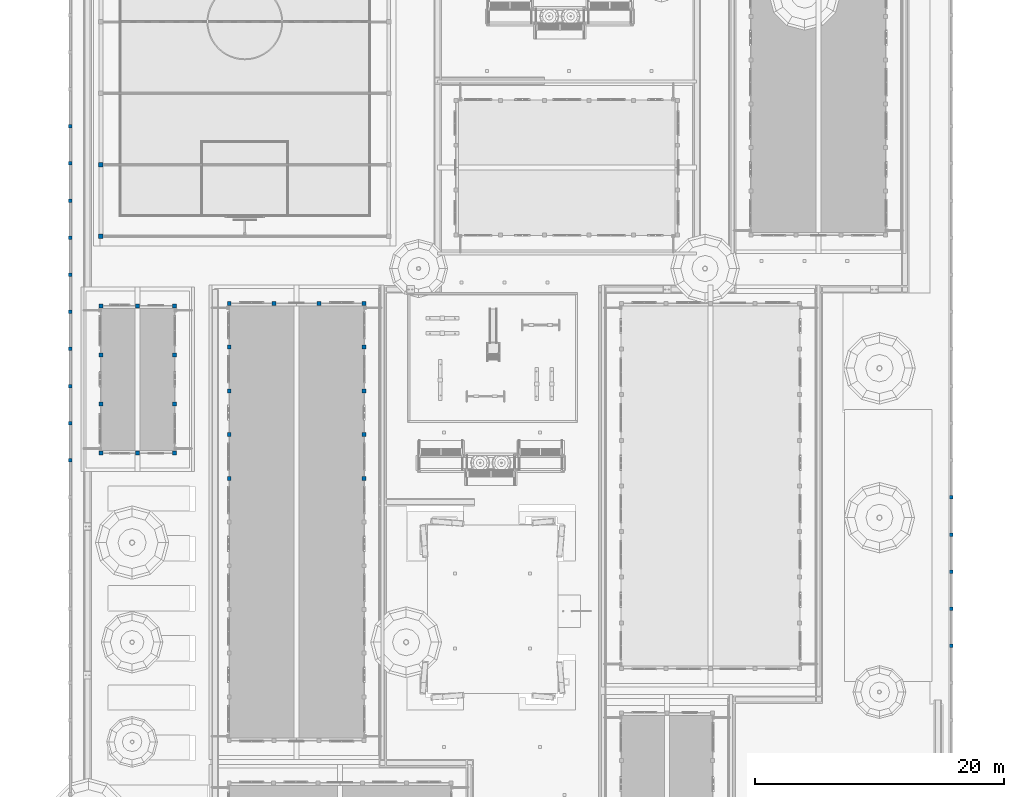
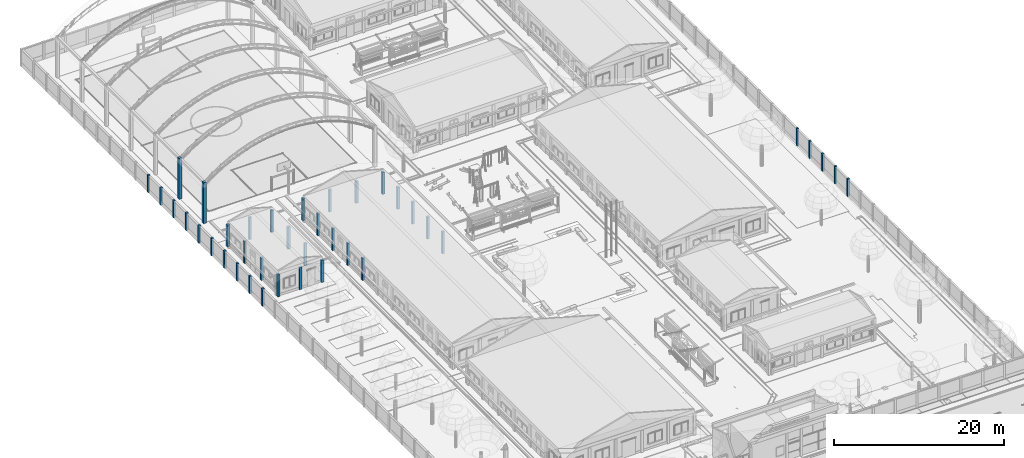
# One storey, part 6 of 177: 45 columns.
"""IFC4 building model written with IfcOpenShell, lengths in metres."""

from ifc_helpers import new_model, si_unit, origin, origin_with_axes, place, context, subcontext, project, spatial, triangles, element, save


model = new_model("IFC4")

# Units and contexts
model_context = context("Model", 3, precision=1e-05, world=origin_with_axes())
body_context = subcontext(model_context, "Body", "Model", "MODEL_VIEW")
ifc_project = project(units=[si_unit("LENGTHUNIT", "METRE"), si_unit("AREAUNIT", "SQUARE_METRE"), si_unit("VOLUMEUNIT", "CUBIC_METRE"), si_unit("PLANEANGLEUNIT", "RADIAN")], contexts=[model_context])

# Site, building, storey
site_placement = place(None, origin_with_axes())
site = spatial("IfcSite", under=ifc_project, at=site_placement, Name="Predio Los Mangos - Morales, San Martín", CompositionType="ELEMENT")
building_placement = place(site_placement, origin())
building = spatial("IfcBuilding", under=site, at=building_placement, Name="Hogar de Refugio Temporal", CompositionType="ELEMENT")
storey_placement = place(building_placement, origin())
storey = spatial("IfcBuildingStorey", under=building, at=storey_placement, Name="NIVEL 1 (NPT +0.00)", CompositionType="ELEMENT", Elevation=0.0)

# Columns
column_1_placement = place(storey_placement, origin())
element("IfcColumn", 1, at=column_1_placement, inside=storey, Name="E-04_col", ObjectType="Columna", PredefinedType="COLUMN", context=body_context, shape_type="Tessellation", body=[
    triangles([(13.64, 87.04, 0.15), (13.96, 87.04, 0.15), (13.96, 87.36, 0.15), (13.64, 87.36, 0.15), (13.64, 87.04, 3.3), (13.96, 87.04, 3.3), (13.96, 87.36, 3.3), (13.64, 87.36, 3.3)], [[1, 4, 3], [1, 3, 2], [5, 6, 7], [5, 7, 8], [1, 2, 6], [1, 6, 5], [2, 3, 7], [2, 7, 6], [3, 4, 8], [3, 8, 7], [4, 1, 5], [4, 5, 8]]),
])
column_2_placement = place(storey_placement, origin())
element("IfcColumn", 2, at=column_2_placement, inside=storey, Name="E-04_col", ObjectType="Columna", PredefinedType="COLUMN", context=body_context, shape_type="Tessellation", body=[
    triangles([(17.24, 87.04, 0.15), (17.56, 87.04, 0.15), (17.56, 87.36, 0.15), (17.24, 87.36, 0.15), (17.24, 87.04, 3.3), (17.56, 87.04, 3.3), (17.56, 87.36, 3.3), (17.24, 87.36, 3.3)], [[1, 4, 3], [1, 3, 2], [5, 6, 7], [5, 7, 8], [1, 2, 6], [1, 6, 5], [2, 3, 7], [2, 7, 6], [3, 4, 8], [3, 8, 7], [4, 1, 5], [4, 5, 8]]),
])
column_3_placement = place(storey_placement, origin())
element("IfcColumn", 3, at=column_3_placement, inside=storey, Name="E-04_col", ObjectType="Columna", PredefinedType="COLUMN", context=body_context, shape_type="Tessellation", body=[
    triangles([(20.84, 87.04, 0.15), (21.16, 87.04, 0.15), (21.16, 87.36, 0.15), (20.84, 87.36, 0.15), (20.84, 87.04, 3.3), (21.16, 87.04, 3.3), (21.16, 87.36, 3.3), (20.84, 87.36, 3.3)], [[1, 4, 3], [1, 3, 2], [5, 6, 7], [5, 7, 8], [1, 2, 6], [1, 6, 5], [2, 3, 7], [2, 7, 6], [3, 4, 8], [3, 8, 7], [4, 1, 5], [4, 5, 8]]),
])
column_4_placement = place(storey_placement, origin())
element("IfcColumn", 4, at=column_4_placement, inside=storey, Name="E-04_col", ObjectType="Columna", PredefinedType="COLUMN", context=body_context, shape_type="Tessellation", body=[
    triangles([(24.44, 87.04, 0.15), (24.76, 87.04, 0.15), (24.76, 87.36, 0.15), (24.44, 87.36, 0.15), (24.44, 87.04, 3.3), (24.76, 87.04, 3.3), (24.76, 87.36, 3.3), (24.44, 87.36, 3.3)], [[1, 4, 3], [1, 3, 2], [5, 6, 7], [5, 7, 8], [1, 2, 6], [1, 6, 5], [2, 3, 7], [2, 7, 6], [3, 4, 8], [3, 8, 7], [4, 1, 5], [4, 5, 8]]),
])
column_5_placement = place(storey_placement, origin())
element("IfcColumn", 5, at=column_5_placement, inside=storey, Name="E-04_col", ObjectType="Columna", PredefinedType="COLUMN", context=body_context, shape_type="Tessellation", body=[
    triangles([(13.64, 73.0, 0.15), (13.96, 73.0, 0.15), (13.96, 73.32, 0.15), (13.64, 73.32, 0.15), (13.64, 73.0, 3.3), (13.96, 73.0, 3.3), (13.96, 73.32, 3.3), (13.64, 73.32, 3.3)], [[1, 4, 3], [1, 3, 2], [5, 6, 7], [5, 7, 8], [1, 2, 6], [1, 6, 5], [2, 3, 7], [2, 7, 6], [3, 4, 8], [3, 8, 7], [4, 1, 5], [4, 5, 8]]),
])
column_6_placement = place(storey_placement, origin())
element("IfcColumn", 6, at=column_6_placement, inside=storey, Name="E-04_col", ObjectType="Columna", PredefinedType="COLUMN", context=body_context, shape_type="Tessellation", body=[
    triangles([(13.64, 76.51, 0.15), (13.96, 76.51, 0.15), (13.96, 76.83, 0.15), (13.64, 76.83, 0.15), (13.64, 76.51, 3.3), (13.96, 76.51, 3.3), (13.96, 76.83, 3.3), (13.64, 76.83, 3.3)], [[1, 4, 3], [1, 3, 2], [5, 6, 7], [5, 7, 8], [1, 2, 6], [1, 6, 5], [2, 3, 7], [2, 7, 6], [3, 4, 8], [3, 8, 7], [4, 1, 5], [4, 5, 8]]),
])
column_7_placement = place(storey_placement, origin())
element("IfcColumn", 7, at=column_7_placement, inside=storey, Name="E-04_col", ObjectType="Columna", PredefinedType="COLUMN", context=body_context, shape_type="Tessellation", body=[
    triangles([(13.64, 80.02, 0.15), (13.96, 80.02, 0.15), (13.96, 80.34, 0.15), (13.64, 80.34, 0.15), (13.64, 80.02, 3.3), (13.96, 80.02, 3.3), (13.96, 80.34, 3.3), (13.64, 80.34, 3.3)], [[1, 4, 3], [1, 3, 2], [5, 6, 7], [5, 7, 8], [1, 2, 6], [1, 6, 5], [2, 3, 7], [2, 7, 6], [3, 4, 8], [3, 8, 7], [4, 1, 5], [4, 5, 8]]),
])
column_8_placement = place(storey_placement, origin())
element("IfcColumn", 8, at=column_8_placement, inside=storey, Name="E-04_col", ObjectType="Columna", PredefinedType="COLUMN", context=body_context, shape_type="Tessellation", body=[
    triangles([(13.64, 83.53, 0.15), (13.96, 83.53, 0.15), (13.96, 83.85, 0.15), (13.64, 83.85, 0.15), (13.64, 83.53, 3.3), (13.96, 83.53, 3.3), (13.96, 83.85, 3.3), (13.64, 83.85, 3.3)], [[1, 4, 3], [1, 3, 2], [5, 6, 7], [5, 7, 8], [1, 2, 6], [1, 6, 5], [2, 3, 7], [2, 7, 6], [3, 4, 8], [3, 8, 7], [4, 1, 5], [4, 5, 8]]),
])
column_9_placement = place(storey_placement, origin())
element("IfcColumn", 9, at=column_9_placement, inside=storey, Name="E-04_col", ObjectType="Columna", PredefinedType="COLUMN", context=body_context, shape_type="Tessellation", body=[
    triangles([(13.64, 87.04, 0.15), (13.96, 87.04, 0.15), (13.96, 87.36, 0.15), (13.64, 87.36, 0.15), (13.64, 87.04, 3.3), (13.96, 87.04, 3.3), (13.96, 87.36, 3.3), (13.64, 87.36, 3.3)], [[1, 4, 3], [1, 3, 2], [5, 6, 7], [5, 7, 8], [1, 2, 6], [1, 6, 5], [2, 3, 7], [2, 7, 6], [3, 4, 8], [3, 8, 7], [4, 1, 5], [4, 5, 8]]),
])
column_10_placement = place(storey_placement, origin())
element("IfcColumn", 10, at=column_10_placement, inside=storey, Name="E-04_col", ObjectType="Columna", PredefinedType="COLUMN", context=body_context, shape_type="Tessellation", body=[
    triangles([(24.44, 73.0, 0.15), (24.76, 73.0, 0.15), (24.76, 73.32, 0.15), (24.44, 73.32, 0.15), (24.44, 73.0, 3.3), (24.76, 73.0, 3.3), (24.76, 73.32, 3.3), (24.44, 73.32, 3.3)], [[1, 4, 3], [1, 3, 2], [5, 6, 7], [5, 7, 8], [1, 2, 6], [1, 6, 5], [2, 3, 7], [2, 7, 6], [3, 4, 8], [3, 8, 7], [4, 1, 5], [4, 5, 8]]),
])
column_11_placement = place(storey_placement, origin())
element("IfcColumn", 11, at=column_11_placement, inside=storey, Name="E-04_col", ObjectType="Columna", PredefinedType="COLUMN", context=body_context, shape_type="Tessellation", body=[
    triangles([(24.44, 76.51, 0.15), (24.76, 76.51, 0.15), (24.76, 76.83, 0.15), (24.44, 76.83, 0.15), (24.44, 76.51, 3.3), (24.76, 76.51, 3.3), (24.76, 76.83, 3.3), (24.44, 76.83, 3.3)], [[1, 4, 3], [1, 3, 2], [5, 6, 7], [5, 7, 8], [1, 2, 6], [1, 6, 5], [2, 3, 7], [2, 7, 6], [3, 4, 8], [3, 8, 7], [4, 1, 5], [4, 5, 8]]),
])
column_12_placement = place(storey_placement, origin())
element("IfcColumn", 12, at=column_12_placement, inside=storey, Name="E-04_col", ObjectType="Columna", PredefinedType="COLUMN", context=body_context, shape_type="Tessellation", body=[
    triangles([(24.44, 80.02, 0.15), (24.76, 80.02, 0.15), (24.76, 80.34, 0.15), (24.44, 80.34, 0.15), (24.44, 80.02, 3.3), (24.76, 80.02, 3.3), (24.76, 80.34, 3.3), (24.44, 80.34, 3.3)], [[1, 4, 3], [1, 3, 2], [5, 6, 7], [5, 7, 8], [1, 2, 6], [1, 6, 5], [2, 3, 7], [2, 7, 6], [3, 4, 8], [3, 8, 7], [4, 1, 5], [4, 5, 8]]),
])
column_13_placement = place(storey_placement, origin())
element("IfcColumn", 13, at=column_13_placement, inside=storey, Name="E-04_col", ObjectType="Columna", PredefinedType="COLUMN", context=body_context, shape_type="Tessellation", body=[
    triangles([(24.44, 83.53, 0.15), (24.76, 83.53, 0.15), (24.76, 83.85, 0.15), (24.44, 83.85, 0.15), (24.44, 83.53, 3.3), (24.76, 83.53, 3.3), (24.76, 83.85, 3.3), (24.44, 83.85, 3.3)], [[1, 4, 3], [1, 3, 2], [5, 6, 7], [5, 7, 8], [1, 2, 6], [1, 6, 5], [2, 3, 7], [2, 7, 6], [3, 4, 8], [3, 8, 7], [4, 1, 5], [4, 5, 8]]),
])
column_14_placement = place(storey_placement, origin())
element("IfcColumn", 14, at=column_14_placement, inside=storey, Name="E-04_col", ObjectType="Columna", PredefinedType="COLUMN", context=body_context, shape_type="Tessellation", body=[
    triangles([(24.44, 87.04, 0.15), (24.76, 87.04, 0.15), (24.76, 87.36, 0.15), (24.44, 87.36, 0.15), (24.44, 87.04, 3.3), (24.76, 87.04, 3.3), (24.76, 87.36, 3.3), (24.44, 87.36, 3.3)], [[1, 4, 3], [1, 3, 2], [5, 6, 7], [5, 7, 8], [1, 2, 6], [1, 6, 5], [2, 3, 7], [2, 7, 6], [3, 4, 8], [3, 8, 7], [4, 1, 5], [4, 5, 8]]),
])
column_15_placement = place(storey_placement, origin())
element("IfcColumn", 15, at=column_15_placement, inside=storey, Name="E-09_col", ObjectType="Columna", PredefinedType="COLUMN", context=body_context, shape_type="Tessellation", body=[
    triangles([(3.34, 75.04, 0.15), (3.66, 75.04, 0.15), (3.66, 75.36, 0.15), (3.34, 75.36, 0.15), (3.34, 75.04, 3.3), (3.66, 75.04, 3.3), (3.66, 75.36, 3.3), (3.34, 75.36, 3.3)], [[1, 4, 3], [1, 3, 2], [5, 6, 7], [5, 7, 8], [1, 2, 6], [1, 6, 5], [2, 3, 7], [2, 7, 6], [3, 4, 8], [3, 8, 7], [4, 1, 5], [4, 5, 8]]),
])
column_16_placement = place(storey_placement, origin())
element("IfcColumn", 16, at=column_16_placement, inside=storey, Name="E-09_col", ObjectType="Columna", PredefinedType="COLUMN", context=body_context, shape_type="Tessellation", body=[
    triangles([(6.29, 75.04, 0.15), (6.61, 75.04, 0.15), (6.61, 75.36, 0.15), (6.29, 75.36, 0.15), (6.29, 75.04, 3.3), (6.61, 75.04, 3.3), (6.61, 75.36, 3.3), (6.29, 75.36, 3.3)], [[1, 4, 3], [1, 3, 2], [5, 6, 7], [5, 7, 8], [1, 2, 6], [1, 6, 5], [2, 3, 7], [2, 7, 6], [3, 4, 8], [3, 8, 7], [4, 1, 5], [4, 5, 8]]),
])
column_17_placement = place(storey_placement, origin())
element("IfcColumn", 17, at=column_17_placement, inside=storey, Name="E-09_col", ObjectType="Columna", PredefinedType="COLUMN", context=body_context, shape_type="Tessellation", body=[
    triangles([(9.24, 75.04, 0.15), (9.56, 75.04, 0.15), (9.56, 75.36, 0.15), (9.24, 75.36, 0.15), (9.24, 75.04, 3.3), (9.56, 75.04, 3.3), (9.56, 75.36, 3.3), (9.24, 75.36, 3.3)], [[1, 4, 3], [1, 3, 2], [5, 6, 7], [5, 7, 8], [1, 2, 6], [1, 6, 5], [2, 3, 7], [2, 7, 6], [3, 4, 8], [3, 8, 7], [4, 1, 5], [4, 5, 8]]),
])
column_18_placement = place(storey_placement, origin())
element("IfcColumn", 18, at=column_18_placement, inside=storey, Name="E-09_col", ObjectType="Columna", PredefinedType="COLUMN", context=body_context, shape_type="Tessellation", body=[
    triangles([(3.34, 86.84, 0.15), (3.66, 86.84, 0.15), (3.66, 87.16, 0.15), (3.34, 87.16, 0.15), (3.34, 86.84, 3.3), (3.66, 86.84, 3.3), (3.66, 87.16, 3.3), (3.34, 87.16, 3.3)], [[1, 4, 3], [1, 3, 2], [5, 6, 7], [5, 7, 8], [1, 2, 6], [1, 6, 5], [2, 3, 7], [2, 7, 6], [3, 4, 8], [3, 8, 7], [4, 1, 5], [4, 5, 8]]),
])
column_19_placement = place(storey_placement, origin())
element("IfcColumn", 19, at=column_19_placement, inside=storey, Name="E-09_col", ObjectType="Columna", PredefinedType="COLUMN", context=body_context, shape_type="Tessellation", body=[
    triangles([(6.29, 86.84, 0.15), (6.61, 86.84, 0.15), (6.61, 87.16, 0.15), (6.29, 87.16, 0.15), (6.29, 86.84, 3.3), (6.61, 86.84, 3.3), (6.61, 87.16, 3.3), (6.29, 87.16, 3.3)], [[1, 4, 3], [1, 3, 2], [5, 6, 7], [5, 7, 8], [1, 2, 6], [1, 6, 5], [2, 3, 7], [2, 7, 6], [3, 4, 8], [3, 8, 7], [4, 1, 5], [4, 5, 8]]),
])
column_20_placement = place(storey_placement, origin())
element("IfcColumn", 20, at=column_20_placement, inside=storey, Name="E-09_col", ObjectType="Columna", PredefinedType="COLUMN", context=body_context, shape_type="Tessellation", body=[
    triangles([(9.24, 86.84, 0.15), (9.56, 86.84, 0.15), (9.56, 87.16, 0.15), (9.24, 87.16, 0.15), (9.24, 86.84, 3.3), (9.56, 86.84, 3.3), (9.56, 87.16, 3.3), (9.24, 87.16, 3.3)], [[1, 4, 3], [1, 3, 2], [5, 6, 7], [5, 7, 8], [1, 2, 6], [1, 6, 5], [2, 3, 7], [2, 7, 6], [3, 4, 8], [3, 8, 7], [4, 1, 5], [4, 5, 8]]),
])
column_21_placement = place(storey_placement, origin())
element("IfcColumn", 21, at=column_21_placement, inside=storey, Name="E-09_col", ObjectType="Columna", PredefinedType="COLUMN", context=body_context, shape_type="Tessellation", body=[
    triangles([(3.34, 75.04, 0.15), (3.66, 75.04, 0.15), (3.66, 75.36, 0.15), (3.34, 75.36, 0.15), (3.34, 75.04, 3.3), (3.66, 75.04, 3.3), (3.66, 75.36, 3.3), (3.34, 75.36, 3.3)], [[1, 4, 3], [1, 3, 2], [5, 6, 7], [5, 7, 8], [1, 2, 6], [1, 6, 5], [2, 3, 7], [2, 7, 6], [3, 4, 8], [3, 8, 7], [4, 1, 5], [4, 5, 8]]),
])
column_22_placement = place(storey_placement, origin())
element("IfcColumn", 22, at=column_22_placement, inside=storey, Name="E-09_col", ObjectType="Columna", PredefinedType="COLUMN", context=body_context, shape_type="Tessellation", body=[
    triangles([(3.34, 78.9733, 0.15), (3.66, 78.9733, 0.15), (3.66, 79.2933, 0.15), (3.34, 79.2933, 0.15), (3.34, 78.9733, 3.3), (3.66, 78.9733, 3.3), (3.66, 79.2933, 3.3), (3.34, 79.2933, 3.3)], [[1, 4, 3], [1, 3, 2], [5, 6, 7], [5, 7, 8], [1, 2, 6], [1, 6, 5], [2, 3, 7], [2, 7, 6], [3, 4, 8], [3, 8, 7], [4, 1, 5], [4, 5, 8]]),
])
column_23_placement = place(storey_placement, origin())
element("IfcColumn", 23, at=column_23_placement, inside=storey, Name="E-09_col", ObjectType="Columna", PredefinedType="COLUMN", context=body_context, shape_type="Tessellation", body=[
    triangles([(3.34, 82.9067, 0.15), (3.66, 82.9067, 0.15), (3.66, 83.2267, 0.15), (3.34, 83.2267, 0.15), (3.34, 82.9067, 3.3), (3.66, 82.9067, 3.3), (3.66, 83.2267, 3.3), (3.34, 83.2267, 3.3)], [[1, 4, 3], [1, 3, 2], [5, 6, 7], [5, 7, 8], [1, 2, 6], [1, 6, 5], [2, 3, 7], [2, 7, 6], [3, 4, 8], [3, 8, 7], [4, 1, 5], [4, 5, 8]]),
])
column_24_placement = place(storey_placement, origin())
element("IfcColumn", 24, at=column_24_placement, inside=storey, Name="E-09_col", ObjectType="Columna", PredefinedType="COLUMN", context=body_context, shape_type="Tessellation", body=[
    triangles([(3.34, 86.84, 0.15), (3.66, 86.84, 0.15), (3.66, 87.16, 0.15), (3.34, 87.16, 0.15), (3.34, 86.84, 3.3), (3.66, 86.84, 3.3), (3.66, 87.16, 3.3), (3.34, 87.16, 3.3)], [[1, 4, 3], [1, 3, 2], [5, 6, 7], [5, 7, 8], [1, 2, 6], [1, 6, 5], [2, 3, 7], [2, 7, 6], [3, 4, 8], [3, 8, 7], [4, 1, 5], [4, 5, 8]]),
])
column_25_placement = place(storey_placement, origin())
element("IfcColumn", 25, at=column_25_placement, inside=storey, Name="E-09_col", ObjectType="Columna", PredefinedType="COLUMN", context=body_context, shape_type="Tessellation", body=[
    triangles([(9.24, 75.04, 0.15), (9.56, 75.04, 0.15), (9.56, 75.36, 0.15), (9.24, 75.36, 0.15), (9.24, 75.04, 3.3), (9.56, 75.04, 3.3), (9.56, 75.36, 3.3), (9.24, 75.36, 3.3)], [[1, 4, 3], [1, 3, 2], [5, 6, 7], [5, 7, 8], [1, 2, 6], [1, 6, 5], [2, 3, 7], [2, 7, 6], [3, 4, 8], [3, 8, 7], [4, 1, 5], [4, 5, 8]]),
])
column_26_placement = place(storey_placement, origin())
element("IfcColumn", 26, at=column_26_placement, inside=storey, Name="E-09_col", ObjectType="Columna", PredefinedType="COLUMN", context=body_context, shape_type="Tessellation", body=[
    triangles([(9.24, 78.9733, 0.15), (9.56, 78.9733, 0.15), (9.56, 79.2933, 0.15), (9.24, 79.2933, 0.15), (9.24, 78.9733, 3.3), (9.56, 78.9733, 3.3), (9.56, 79.2933, 3.3), (9.24, 79.2933, 3.3)], [[1, 4, 3], [1, 3, 2], [5, 6, 7], [5, 7, 8], [1, 2, 6], [1, 6, 5], [2, 3, 7], [2, 7, 6], [3, 4, 8], [3, 8, 7], [4, 1, 5], [4, 5, 8]]),
])
column_27_placement = place(storey_placement, origin())
element("IfcColumn", 27, at=column_27_placement, inside=storey, Name="E-09_col", ObjectType="Columna", PredefinedType="COLUMN", context=body_context, shape_type="Tessellation", body=[
    triangles([(9.24, 82.9067, 0.15), (9.56, 82.9067, 0.15), (9.56, 83.2267, 0.15), (9.24, 83.2267, 0.15), (9.24, 82.9067, 3.3), (9.56, 82.9067, 3.3), (9.56, 83.2267, 3.3), (9.24, 83.2267, 3.3)], [[1, 4, 3], [1, 3, 2], [5, 6, 7], [5, 7, 8], [1, 2, 6], [1, 6, 5], [2, 3, 7], [2, 7, 6], [3, 4, 8], [3, 8, 7], [4, 1, 5], [4, 5, 8]]),
])
column_28_placement = place(storey_placement, origin())
element("IfcColumn", 28, at=column_28_placement, inside=storey, Name="E-09_col", ObjectType="Columna", PredefinedType="COLUMN", context=body_context, shape_type="Tessellation", body=[
    triangles([(9.24, 86.84, 0.15), (9.56, 86.84, 0.15), (9.56, 87.16, 0.15), (9.24, 87.16, 0.15), (9.24, 86.84, 3.3), (9.56, 86.84, 3.3), (9.56, 87.16, 3.3), (9.24, 87.16, 3.3)], [[1, 4, 3], [1, 3, 2], [5, 6, 7], [5, 7, 8], [1, 2, 6], [1, 6, 5], [2, 3, 7], [2, 7, 6], [3, 4, 8], [3, 8, 7], [4, 1, 5], [4, 5, 8]]),
])
column_29_placement = place(storey_placement, origin())
element("IfcColumn", 29, at=column_29_placement, inside=storey, Name="columna_losa", ObjectType="Columna", PredefinedType="COLUMN", context=body_context, shape_type="Tessellation", body=[
    triangles([(3.32, 92.42, 0.12), (3.68, 92.42, 0.12), (3.68, 92.78, 0.12), (3.32, 92.78, 0.12), (3.32, 92.42, 6.0), (3.68, 92.42, 6.0), (3.68, 92.78, 6.0), (3.32, 92.78, 6.0)], [[1, 4, 3], [1, 3, 2], [5, 6, 7], [5, 7, 8], [1, 2, 6], [1, 6, 5], [2, 3, 7], [2, 7, 6], [3, 4, 8], [3, 8, 7], [4, 1, 5], [4, 5, 8]]),
])
column_30_placement = place(storey_placement, origin())
element("IfcColumn", 30, at=column_30_placement, inside=storey, Name="columna_losa", ObjectType="Columna", PredefinedType="COLUMN", context=body_context, shape_type="Tessellation", body=[
    triangles([(3.32, 98.1533, 0.12), (3.68, 98.1533, 0.12), (3.68, 98.5133, 0.12), (3.32, 98.5133, 0.12), (3.32, 98.1533, 6.0), (3.68, 98.1533, 6.0), (3.68, 98.5133, 6.0), (3.32, 98.5133, 6.0)], [[1, 4, 3], [1, 3, 2], [5, 6, 7], [5, 7, 8], [1, 2, 6], [1, 6, 5], [2, 3, 7], [2, 7, 6], [3, 4, 8], [3, 8, 7], [4, 1, 5], [4, 5, 8]]),
])
column_31_placement = place(storey_placement, origin())
element("IfcColumn", 31, at=column_31_placement, inside=storey, Name="columna_cerco", ObjectType="Columna", PredefinedType="COLUMN", context=body_context, shape_type="Tessellation", body=[
    triangles([(71.9, 59.5689, 0.0), (71.9, 59.8489, 0.0), (71.62, 59.8489, 0.0), (71.62, 59.5689, 0.0), (71.9, 59.5689, 2.5), (71.9, 59.8489, 2.5), (71.62, 59.8489, 2.5), (71.62, 59.5689, 2.5)], [[1, 4, 3], [1, 3, 2], [5, 6, 7], [5, 7, 8], [1, 2, 6], [1, 6, 5], [2, 3, 7], [2, 7, 6], [3, 4, 8], [3, 8, 7], [4, 1, 5], [4, 5, 8]]),
])
column_32_placement = place(storey_placement, origin())
element("IfcColumn", 32, at=column_32_placement, inside=storey, Name="columna_cerco", ObjectType="Columna", PredefinedType="COLUMN", context=body_context, shape_type="Tessellation", body=[
    triangles([(71.9, 62.5482, 0.0), (71.9, 62.8282, 0.0), (71.62, 62.8282, 0.0), (71.62, 62.5482, 0.0), (71.9, 62.5482, 2.5), (71.9, 62.8282, 2.5), (71.62, 62.8282, 2.5), (71.62, 62.5482, 2.5)], [[1, 4, 3], [1, 3, 2], [5, 6, 7], [5, 7, 8], [1, 2, 6], [1, 6, 5], [2, 3, 7], [2, 7, 6], [3, 4, 8], [3, 8, 7], [4, 1, 5], [4, 5, 8]]),
])
column_33_placement = place(storey_placement, origin())
element("IfcColumn", 33, at=column_33_placement, inside=storey, Name="columna_cerco", ObjectType="Columna", PredefinedType="COLUMN", context=body_context, shape_type="Tessellation", body=[
    triangles([(71.9, 65.5274, 0.0), (71.9, 65.8074, 0.0), (71.62, 65.8074, 0.0), (71.62, 65.5274, 0.0), (71.9, 65.5274, 2.5), (71.9, 65.8074, 2.5), (71.62, 65.8074, 2.5), (71.62, 65.5274, 2.5)], [[1, 4, 3], [1, 3, 2], [5, 6, 7], [5, 7, 8], [1, 2, 6], [1, 6, 5], [2, 3, 7], [2, 7, 6], [3, 4, 8], [3, 8, 7], [4, 1, 5], [4, 5, 8]]),
])
column_34_placement = place(storey_placement, origin())
element("IfcColumn", 34, at=column_34_placement, inside=storey, Name="columna_cerco", ObjectType="Columna", PredefinedType="COLUMN", context=body_context, shape_type="Tessellation", body=[
    triangles([(71.9, 68.5066, 0.0), (71.9, 68.7866, 0.0), (71.62, 68.7866, 0.0), (71.62, 68.5066, 0.0), (71.9, 68.5066, 2.5), (71.9, 68.7866, 2.5), (71.62, 68.7866, 2.5), (71.62, 68.5066, 2.5)], [[1, 4, 3], [1, 3, 2], [5, 6, 7], [5, 7, 8], [1, 2, 6], [1, 6, 5], [2, 3, 7], [2, 7, 6], [3, 4, 8], [3, 8, 7], [4, 1, 5], [4, 5, 8]]),
])
column_35_placement = place(storey_placement, origin())
element("IfcColumn", 35, at=column_35_placement, inside=storey, Name="columna_cerco", ObjectType="Columna", PredefinedType="COLUMN", context=body_context, shape_type="Tessellation", body=[
    triangles([(71.9, 71.4858, 0.0), (71.9, 71.7658, 0.0), (71.62, 71.7658, 0.0), (71.62, 71.4858, 0.0), (71.9, 71.4858, 2.5), (71.9, 71.7658, 2.5), (71.62, 71.7658, 2.5), (71.62, 71.4858, 2.5)], [[1, 4, 3], [1, 3, 2], [5, 6, 7], [5, 7, 8], [1, 2, 6], [1, 6, 5], [2, 3, 7], [2, 7, 6], [3, 4, 8], [3, 8, 7], [4, 1, 5], [4, 5, 8]]),
])
column_36_placement = place(storey_placement, origin())
element("IfcColumn", 36, at=column_36_placement, inside=storey, Name="columna_cerco", ObjectType="Columna", PredefinedType="COLUMN", context=body_context, shape_type="Tessellation", body=[
    triangles([(0.91, 101.5579, 0.0), (0.91, 101.2779, 0.0), (1.19, 101.2779, 0.0), (1.19, 101.5579, 0.0), (0.91, 101.5579, 2.5), (0.91, 101.2779, 2.5), (1.19, 101.2779, 2.5), (1.19, 101.5579, 2.5)], [[1, 4, 3], [1, 3, 2], [5, 6, 7], [5, 7, 8], [1, 2, 6], [1, 6, 5], [2, 3, 7], [2, 7, 6], [3, 4, 8], [3, 8, 7], [4, 1, 5], [4, 5, 8]]),
])
column_37_placement = place(storey_placement, origin())
element("IfcColumn", 37, at=column_37_placement, inside=storey, Name="columna_cerco", ObjectType="Columna", PredefinedType="COLUMN", context=body_context, shape_type="Tessellation", body=[
    triangles([(0.91, 98.5787, 0.0), (0.91, 98.2987, 0.0), (1.19, 98.2987, 0.0), (1.19, 98.5787, 0.0), (0.91, 98.5787, 2.5), (0.91, 98.2987, 2.5), (1.19, 98.2987, 2.5), (1.19, 98.5787, 2.5)], [[1, 4, 3], [1, 3, 2], [5, 6, 7], [5, 7, 8], [1, 2, 6], [1, 6, 5], [2, 3, 7], [2, 7, 6], [3, 4, 8], [3, 8, 7], [4, 1, 5], [4, 5, 8]]),
])
column_38_placement = place(storey_placement, origin())
element("IfcColumn", 38, at=column_38_placement, inside=storey, Name="columna_cerco", ObjectType="Columna", PredefinedType="COLUMN", context=body_context, shape_type="Tessellation", body=[
    triangles([(0.91, 95.5995, 0.0), (0.91, 95.3195, 0.0), (1.19, 95.3195, 0.0), (1.19, 95.5995, 0.0), (0.91, 95.5995, 2.5), (0.91, 95.3195, 2.5), (1.19, 95.3195, 2.5), (1.19, 95.5995, 2.5)], [[1, 4, 3], [1, 3, 2], [5, 6, 7], [5, 7, 8], [1, 2, 6], [1, 6, 5], [2, 3, 7], [2, 7, 6], [3, 4, 8], [3, 8, 7], [4, 1, 5], [4, 5, 8]]),
])
column_39_placement = place(storey_placement, origin())
element("IfcColumn", 39, at=column_39_placement, inside=storey, Name="columna_cerco", ObjectType="Columna", PredefinedType="COLUMN", context=body_context, shape_type="Tessellation", body=[
    triangles([(0.91, 92.6203, 0.0), (0.91, 92.3403, 0.0), (1.19, 92.3403, 0.0), (1.19, 92.6203, 0.0), (0.91, 92.6203, 2.5), (0.91, 92.3403, 2.5), (1.19, 92.3403, 2.5), (1.19, 92.6203, 2.5)], [[1, 4, 3], [1, 3, 2], [5, 6, 7], [5, 7, 8], [1, 2, 6], [1, 6, 5], [2, 3, 7], [2, 7, 6], [3, 4, 8], [3, 8, 7], [4, 1, 5], [4, 5, 8]]),
])
column_40_placement = place(storey_placement, origin())
element("IfcColumn", 40, at=column_40_placement, inside=storey, Name="columna_cerco", ObjectType="Columna", PredefinedType="COLUMN", context=body_context, shape_type="Tessellation", body=[
    triangles([(0.91, 89.6411, 0.0), (0.91, 89.3611, 0.0), (1.19, 89.3611, 0.0), (1.19, 89.6411, 0.0), (0.91, 89.6411, 2.5), (0.91, 89.3611, 2.5), (1.19, 89.3611, 2.5), (1.19, 89.6411, 2.5)], [[1, 4, 3], [1, 3, 2], [5, 6, 7], [5, 7, 8], [1, 2, 6], [1, 6, 5], [2, 3, 7], [2, 7, 6], [3, 4, 8], [3, 8, 7], [4, 1, 5], [4, 5, 8]]),
])
column_41_placement = place(storey_placement, origin())
element("IfcColumn", 41, at=column_41_placement, inside=storey, Name="columna_cerco", ObjectType="Columna", PredefinedType="COLUMN", context=body_context, shape_type="Tessellation", body=[
    triangles([(0.91, 86.6618, 0.0), (0.91, 86.3818, 0.0), (1.19, 86.3818, 0.0), (1.19, 86.6618, 0.0), (0.91, 86.6618, 2.5), (0.91, 86.3818, 2.5), (1.19, 86.3818, 2.5), (1.19, 86.6618, 2.5)], [[1, 4, 3], [1, 3, 2], [5, 6, 7], [5, 7, 8], [1, 2, 6], [1, 6, 5], [2, 3, 7], [2, 7, 6], [3, 4, 8], [3, 8, 7], [4, 1, 5], [4, 5, 8]]),
])
column_42_placement = place(storey_placement, origin())
element("IfcColumn", 42, at=column_42_placement, inside=storey, Name="columna_cerco", ObjectType="Columna", PredefinedType="COLUMN", context=body_context, shape_type="Tessellation", body=[
    triangles([(0.91, 83.6826, 0.0), (0.91, 83.4026, 0.0), (1.19, 83.4026, 0.0), (1.19, 83.6826, 0.0), (0.91, 83.6826, 2.5), (0.91, 83.4026, 2.5), (1.19, 83.4026, 2.5), (1.19, 83.6826, 2.5)], [[1, 4, 3], [1, 3, 2], [5, 6, 7], [5, 7, 8], [1, 2, 6], [1, 6, 5], [2, 3, 7], [2, 7, 6], [3, 4, 8], [3, 8, 7], [4, 1, 5], [4, 5, 8]]),
])
column_43_placement = place(storey_placement, origin())
element("IfcColumn", 43, at=column_43_placement, inside=storey, Name="columna_cerco", ObjectType="Columna", PredefinedType="COLUMN", context=body_context, shape_type="Tessellation", body=[
    triangles([(0.91, 80.7034, 0.0), (0.91, 80.4234, 0.0), (1.19, 80.4234, 0.0), (1.19, 80.7034, 0.0), (0.91, 80.7034, 2.5), (0.91, 80.4234, 2.5), (1.19, 80.4234, 2.5), (1.19, 80.7034, 2.5)], [[1, 4, 3], [1, 3, 2], [5, 6, 7], [5, 7, 8], [1, 2, 6], [1, 6, 5], [2, 3, 7], [2, 7, 6], [3, 4, 8], [3, 8, 7], [4, 1, 5], [4, 5, 8]]),
])
column_44_placement = place(storey_placement, origin())
element("IfcColumn", 44, at=column_44_placement, inside=storey, Name="columna_cerco", ObjectType="Columna", PredefinedType="COLUMN", context=body_context, shape_type="Tessellation", body=[
    triangles([(0.91, 77.7242, 0.0), (0.91, 77.4442, 0.0), (1.19, 77.4442, 0.0), (1.19, 77.7242, 0.0), (0.91, 77.7242, 2.5), (0.91, 77.4442, 2.5), (1.19, 77.4442, 2.5), (1.19, 77.7242, 2.5)], [[1, 4, 3], [1, 3, 2], [5, 6, 7], [5, 7, 8], [1, 2, 6], [1, 6, 5], [2, 3, 7], [2, 7, 6], [3, 4, 8], [3, 8, 7], [4, 1, 5], [4, 5, 8]]),
])
column_45_placement = place(storey_placement, origin())
element("IfcColumn", 45, at=column_45_placement, inside=storey, Name="columna_cerco", ObjectType="Columna", PredefinedType="COLUMN", context=body_context, shape_type="Tessellation", body=[
    triangles([(0.91, 74.745, 0.0), (0.91, 74.465, 0.0), (1.19, 74.465, 0.0), (1.19, 74.745, 0.0), (0.91, 74.745, 2.5), (0.91, 74.465, 2.5), (1.19, 74.465, 2.5), (1.19, 74.745, 2.5)], [[1, 4, 3], [1, 3, 2], [5, 6, 7], [5, 7, 8], [1, 2, 6], [1, 6, 5], [2, 3, 7], [2, 7, 6], [3, 4, 8], [3, 8, 7], [4, 1, 5], [4, 5, 8]]),
])

save(model, "model.ifc")
